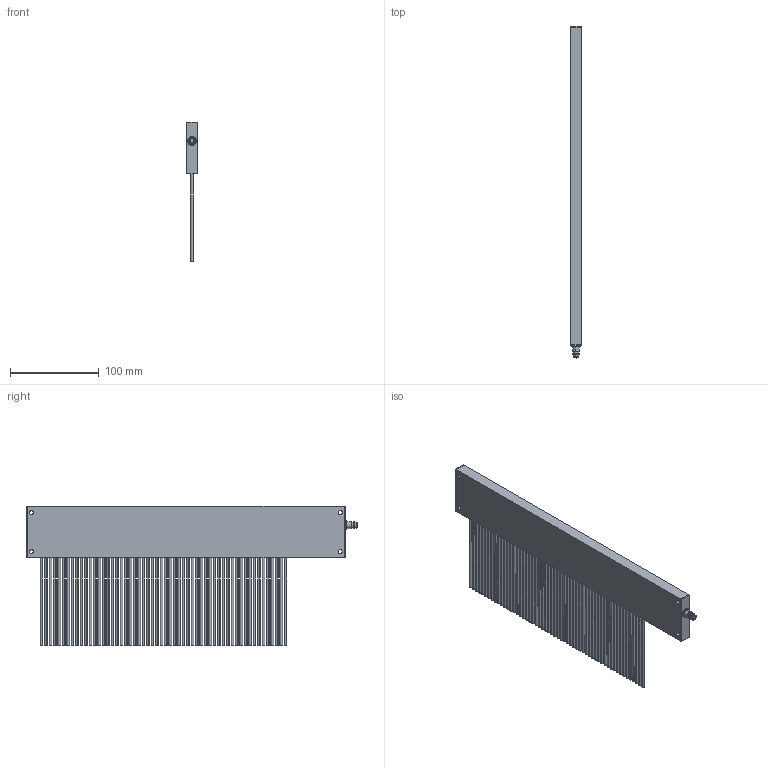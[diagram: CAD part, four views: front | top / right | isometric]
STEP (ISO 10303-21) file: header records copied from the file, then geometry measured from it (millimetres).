
FILE_DESCRIPTION (( 'STEP AP203' ), '1' );
FILE_NAME ('CSL505-RxTx05-275-M8.STEP', '2016-02-11T10:07:04', ( '' ), ( '' ), 'SwSTEP 2.0', 'SolidWorks 2015', '' );
FILE_SCHEMA (( 'CONFIG_CONTROL_DESIGN' ));
Length unit declared in the file: millimetre
Products named in the file (2): CSL505-RxTx05-275-M8
Bounding box: 12 x 374 x 156.77 mm (x, y, z)
Volume: 286152.6 mm3; surface area: 108995.5 mm2
Topology: 1 solids, 1 shells, 340 faces, 804 edges, 526 vertices
Faces by surface type: cylinder 168, plane 156, cone 12, sphere 4
Entity records: 9957 total; most frequent: DIRECTION 1826, CARTESIAN_POINT 1652, ORIENTED_EDGE 1584, EDGE_CURVE 792, AXIS2_PLACEMENT_3D 692, VERTEX_POINT 518, VECTOR 442, LINE 442
